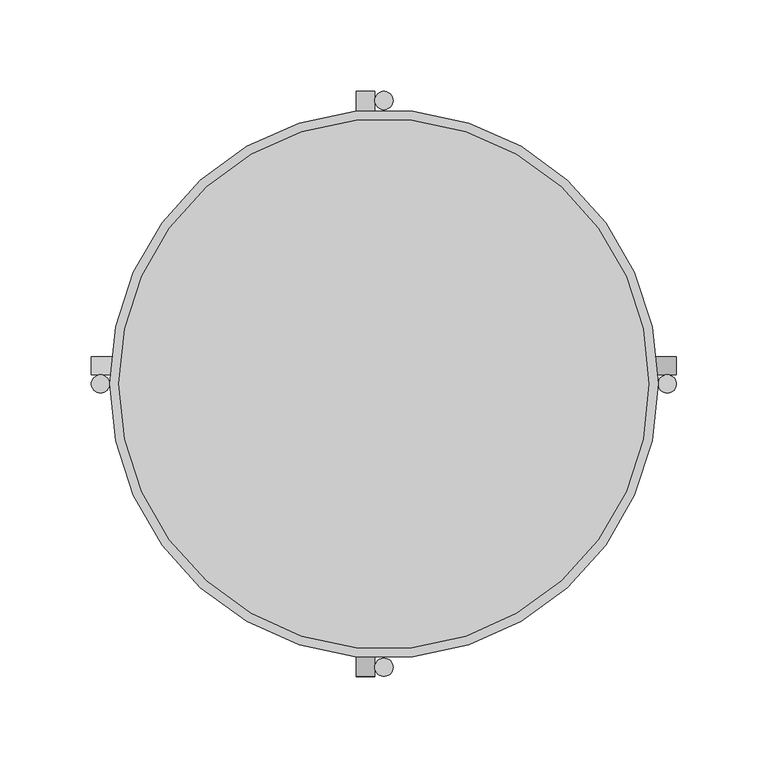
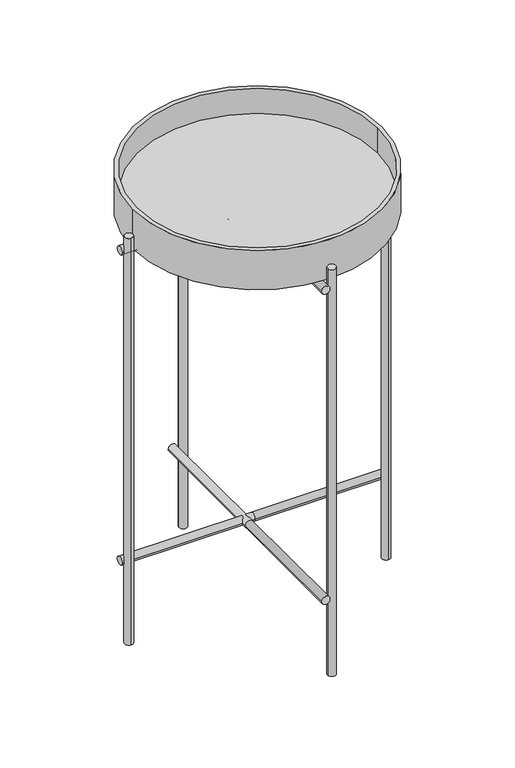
"""IFC4 building model written with IfcOpenShell, lengths in millimetres: furniture geometry, Mobiliário_Mobiliário de Escritório_Mesa de Centro e Apoio Lateral HOS06_Marelli : Mobiliário_Mobiliário de Escritório_Mesa de Centro e Apoio Lateral HOS06_Marelli."""

from ifc_helpers import new_model, si_unit, point, frame, frame_2d, origin, origin_with_axes, place, context, project, spatial, polyline, circle_curve, trimmed, segment, composite_curve, outline, extrude, source, transform, mapped, element, save
from ifc_brep_helpers import plane_surface, cylinder_surface, revolved_surface, advanced_brep


def furniture_1215a6ad(model_context):
    return source(origin(), model_context, "Body", "SolidModel", [
        extrude(outline(composite_curve([segment(trimmed(circle_curve(frame_2d((0.0, 155.0)), 5.0), [point((-5.0, 155.0))], [point((5.0, 155.0))], False, "CARTESIAN"), True, "CONTINUOUS"), segment(trimmed(circle_curve(frame_2d((0.0, 155.0)), 5.0), [point((5.0, 155.0))], [point((-5.0, 155.0))], False, "CARTESIAN"), True, "CONTINUOUS")], self_intersect=False)), origin_with_axes(), (0.0, 0.0, 1.0), 518.0),
        extrude(outline(composite_curve([segment(trimmed(circle_curve(frame_2d((0.0, -155.0)), 5.0), [point((-5.0, -155.0))], [point((5.0, -155.0))], False, "CARTESIAN"), True, "CONTINUOUS"), segment(trimmed(circle_curve(frame_2d((0.0, -155.0)), 5.0), [point((5.0, -155.0))], [point((-5.0, -155.0))], False, "CARTESIAN"), True, "CONTINUOUS")], self_intersect=False)), origin_with_axes(), (0.0, 0.0, 1.0), 518.0),
        extrude(outline(composite_curve([segment(trimmed(circle_curve(frame_2d((155.0, 0.0)), 5.0), [point((155.0, -5.0))], [point((155.0, 5.0))], False, "CARTESIAN"), True, "CONTINUOUS"), segment(trimmed(circle_curve(frame_2d((155.0, 0.0)), 5.0), [point((155.0, 5.0))], [point((155.0, -5.0))], False, "CARTESIAN"), True, "CONTINUOUS")], self_intersect=False)), origin_with_axes(), (0.0, 0.0, 1.0), 518.0),
        extrude(outline(composite_curve([segment(trimmed(circle_curve(frame_2d((-155.0, 0.0)), 5.0), [point((-155.0, -5.0))], [point((-155.0, 5.0))], False, "CARTESIAN"), True, "CONTINUOUS"), segment(trimmed(circle_curve(frame_2d((-155.0, 0.0)), 5.0), [point((-155.0, 5.0))], [point((-155.0, -5.0))], False, "CARTESIAN"), True, "CONTINUOUS")], self_intersect=False)), origin_with_axes(), (0.0, 0.0, 1.0), 518.0),
        advanced_brep(
        [(-150.0, 0.0, 550.0), (150.0, 0.0, 550.0), (145.0, 0.0, 550.0), (-145.0, 0.0, 550.0), (-150.0, 0.0, 500.0), (150.0, 0.0, 500.0), (-145.0, 0.0, 518.0), (145.0, 0.0, 518.0)],
        [
            (0, 1, circle_curve(frame((0.0, 0.0, 550.0), z_axis=(0.0, 0.0, 1.0), x_axis=(1.0, 0.0, 0.0)), 150.0)),
            (1, 0, circle_curve(frame((0.0, 0.0, 550.0), z_axis=(0.0, 0.0, 1.0), x_axis=(1.0, 0.0, 0.0)), 150.0)),
            (2, 3, circle_curve(frame((0.0, 0.0, 550.0), z_axis=(0.0, 0.0, -1.0), x_axis=(1.0, 0.0, 0.0)), 145.0)),
            (3, 2, circle_curve(frame((0.0, 0.0, 550.0), z_axis=(0.0, 0.0, -1.0), x_axis=(1.0, 0.0, 0.0)), 145.0)),
            (4, 5, circle_curve(frame((0.0, 0.0, 500.0), z_axis=(0.0, 0.0, -1.0), x_axis=(1.0, 0.0, 0.0)), 150.0)),
            (5, 4, circle_curve(frame((0.0, 0.0, 500.0), z_axis=(0.0, 0.0, -1.0), x_axis=(1.0, 0.0, 0.0)), 150.0)),
            (0, 4),
            (5, 1),
            (6, 7, circle_curve(frame((0.0, 0.0, 518.0), z_axis=(0.0, 0.0, 1.0), x_axis=(1.0, 0.0, 0.0)), 145.0)),
            (7, 6, circle_curve(frame((0.0, 0.0, 518.0), z_axis=(0.0, 0.0, 1.0), x_axis=(1.0, 0.0, 0.0)), 145.0)),
            (6, 3),
            (2, 7),
        ],
        [
            plane_surface(frame((150.0, 0.0, 550.0), z_axis=(0.0, 0.0, 1.0), x_axis=(0.0, 1.0, 0.0))),
            plane_surface(frame((150.0, 0.0, 500.0), z_axis=(0.0, 0.0, -1.0), x_axis=(0.0, -1.0, 0.0))),
            cylinder_surface(frame((0.0, 0.0, 500.0), z_axis=(0.0, 0.0, 1.0), x_axis=(1.0, 0.0, 0.0)), 150.0),
            plane_surface(frame((145.0, 0.0, 518.0), z_axis=(0.0, 0.0, 1.0), x_axis=(0.0, -1.0, 0.0))),
            revolved_surface(polyline([(145.0, 0.0, 550.0), (145.0, 0.0, 518.0)]), (0.0, 0.0, 518.0), (0.0, 0.0, 1.0)),
        ],
        [
            (0, [[1, 2], [3, 4]]),
            (1, [[5, 6]]),
            (2, [[-1, 7, -6, 8]]),
            (2, [[-2, -8, -5, -7]]),
            (3, [[9, 10]]),
            (4, [[-9, 11, -3, 12]]),
            (4, [[-10, -12, -4, -11]]),
        ],
    ),
        advanced_brep(
        [(-15.0, 160.0, 100.0), (-5.0, 160.0, 100.0), (-5.0, 0.0, 100.0), (-15.0, 0.0, 100.0), (-15.0, -160.0, 100.0), (-5.0, -160.0, 100.0)],
        [
            (0, 1, circle_curve(frame((-10.0, 160.0, 100.0), z_axis=(0.0, 1.0, 0.0), x_axis=(1.0, 0.0, 0.0)), 5.0)),
            (1, 0, circle_curve(frame((-10.0, 160.0, 100.0), z_axis=(0.0, 1.0, 0.0), x_axis=(1.0, 0.0, 0.0)), 5.0)),
            (1, 2),
            (2, 3, circle_curve(frame((-10.0, 0.0, 100.0), z_axis=(0.0, 1.0, 0.0), x_axis=(1.0, 0.0, 0.0)), 5.0)),
            (3, 0),
            (3, 2, circle_curve(frame((-10.0, 0.0, 100.0), z_axis=(0.0, 1.0, 0.0), x_axis=(1.0, 0.0, 0.0)), 5.0)),
            (4, 5, circle_curve(frame((-10.0, -160.0, 100.0), z_axis=(0.0, -1.0, 0.0), x_axis=(1.0, 0.0, 0.0)), 5.0)),
            (5, 4, circle_curve(frame((-10.0, -160.0, 100.0), z_axis=(0.0, -1.0, 0.0), x_axis=(1.0, 0.0, 0.0)), 5.0)),
            (4, 3),
            (2, 5),
        ],
        [
            plane_surface(frame((-5.0, 160.0, 100.0), z_axis=(0.0, 1.0, 0.0), x_axis=(0.0, 0.0, -1.0))),
            cylinder_surface(frame((-10.0, 160.0, 100.0), z_axis=(0.0, -1.0, 0.0), x_axis=(1.0, 0.0, 0.0)), 5.0),
            plane_surface(frame((-5.0, -160.0, 100.0), z_axis=(0.0, -1.0, 0.0), x_axis=(0.0, 0.0, 1.0))),
            cylinder_surface(frame((-10.0, -160.0, 100.0), z_axis=(0.0, 1.0, 0.0), x_axis=(1.0, 0.0, 0.0)), 5.0),
        ],
        [
            (0, [[1, 2]]),
            (1, [[-2, 3, 4, 5]]),
            (1, [[-1, -5, 6, -3]]),
            (2, [[7, 8]]),
            (3, [[-7, 9, -4, 10]]),
            (3, [[-8, -10, -6, -9]]),
        ],
    ),
        advanced_brep(
        [(-160.0, 5.0, 100.0), (-160.0, 15.0, 100.0), (0.0, 15.0, 100.0), (0.0, 5.0, 100.0), (160.0, 5.0, 100.0), (160.0, 15.0, 100.0)],
        [
            (0, 1, circle_curve(frame((-160.0, 10.0, 100.0), z_axis=(-1.0, 0.0, 0.0), x_axis=(0.0, 1.0, 0.0)), 5.0)),
            (1, 0, circle_curve(frame((-160.0, 10.0, 100.0), z_axis=(-1.0, 0.0, 0.0), x_axis=(0.0, 1.0, 0.0)), 5.0)),
            (1, 2),
            (2, 3, circle_curve(frame((0.0, 10.0, 100.0), z_axis=(-1.0, 0.0, 0.0), x_axis=(0.0, 1.0, 0.0)), 5.0)),
            (3, 0),
            (3, 2, circle_curve(frame((0.0, 10.0, 100.0), z_axis=(-1.0, 0.0, 0.0), x_axis=(0.0, 1.0, 0.0)), 5.0)),
            (4, 5, circle_curve(frame((160.0, 10.0, 100.0), z_axis=(1.0, 0.0, 0.0), x_axis=(0.0, 1.0, 0.0)), 5.0)),
            (5, 4, circle_curve(frame((160.0, 10.0, 100.0), z_axis=(1.0, 0.0, 0.0), x_axis=(0.0, 1.0, 0.0)), 5.0)),
            (4, 3),
            (2, 5),
        ],
        [
            plane_surface(frame((-160.0, 15.0, 100.0), z_axis=(-1.0, 0.0, 0.0), x_axis=(0.0, 0.0, -1.0))),
            cylinder_surface(frame((-160.0, 10.0, 100.0), z_axis=(1.0, 0.0, 0.0), x_axis=(0.0, 1.0, 0.0)), 5.0),
            plane_surface(frame((160.0, 15.0, 100.0), z_axis=(1.0, 0.0, 0.0), x_axis=(0.0, 0.0, 1.0))),
            cylinder_surface(frame((160.0, 10.0, 100.0), z_axis=(-1.0, 0.0, 0.0), x_axis=(0.0, 1.0, 0.0)), 5.0),
        ],
        [
            (0, [[1, 2]]),
            (1, [[-2, 3, 4, 5]]),
            (1, [[-1, -5, 6, -3]]),
            (2, [[7, 8]]),
            (3, [[-7, 9, -4, 10]]),
            (3, [[-8, -10, -6, -9]]),
        ],
    ),
        extrude(outline(composite_curve([segment(trimmed(circle_curve(frame_2d((495.0, -10.0)), 5.0), [point((495.0, -15.0))], [point((495.0, -5.0))], False, "CARTESIAN"), True, "CONTINUOUS"), segment(trimmed(circle_curve(frame_2d((495.0, -10.0)), 5.0), [point((495.0, -5.0))], [point((495.0, -15.0))], False, "CARTESIAN"), True, "CONTINUOUS")], self_intersect=False)), frame((0.0, -160.0, 0.0), z_axis=(0.0, 1.0, 0.0), x_axis=(0.0, 0.0, 1.0)), (0.0, 0.0, 1.0), 130.0),
        extrude(outline(composite_curve([segment(trimmed(circle_curve(frame_2d((495.0, -10.0)), 5.0), [point((495.0, -15.0))], [point((495.0, -5.0))], False, "CARTESIAN"), True, "CONTINUOUS"), segment(trimmed(circle_curve(frame_2d((495.0, -10.0)), 5.0), [point((495.0, -5.0))], [point((495.0, -15.0))], False, "CARTESIAN"), True, "CONTINUOUS")], self_intersect=False)), frame((0.0, 30.0, 0.0), z_axis=(0.0, 1.0, 0.0), x_axis=(0.0, 0.0, 1.0)), (0.0, 0.0, 1.0), 130.0),
        extrude(outline(composite_curve([segment(trimmed(circle_curve(frame_2d((10.0, 495.0)), 5.0), [point((5.0, 495.0))], [point((15.0, 495.0))], False, "CARTESIAN"), True, "CONTINUOUS"), segment(trimmed(circle_curve(frame_2d((10.0, 495.0)), 5.0), [point((15.0, 495.0))], [point((5.0, 495.0))], False, "CARTESIAN"), True, "CONTINUOUS")], self_intersect=False)), frame((-160.0, 0.0, 0.0), z_axis=(1.0, 0.0, 0.0), x_axis=(0.0, 1.0, 0.0)), (0.0, 0.0, 1.0), 130.0),
        extrude(outline(composite_curve([segment(trimmed(circle_curve(frame_2d((10.0, 495.0)), 5.0), [point((5.0, 495.0))], [point((15.0, 495.0))], False, "CARTESIAN"), True, "CONTINUOUS"), segment(trimmed(circle_curve(frame_2d((10.0, 495.0)), 5.0), [point((15.0, 495.0))], [point((5.0, 495.0))], False, "CARTESIAN"), True, "CONTINUOUS")], self_intersect=False)), frame((30.0, 0.0, 0.0), z_axis=(1.0, 0.0, 0.0), x_axis=(0.0, 1.0, 0.0)), (0.0, 0.0, 1.0), 130.0),
    ])


if __name__ == "__main__":
    model = new_model("IFC4")
    model_context = context("Model", 3, world=origin())
    ifc_project = project(units=[si_unit("LENGTHUNIT", "METRE", prefix="MILLI")], contexts=[model_context])
    site = spatial("IfcSite", under=ifc_project)
    building = spatial("IfcBuilding", under=site)
    placement = place(None, origin())
    furniture_shape = furniture_1215a6ad(model_context)
    element("IfcFurniture", 1, ObjectType="Mobiliário_Mobiliário de Escritório_Mesa de Centro e Apoio Lateral HOS06_Marelli : Mobiliário_Mobiliário de Escritório_Mesa de Centro e Apoio Lateral HOS06_Marelli", at=placement, inside=building, context=model_context, shape_type="MappedRepresentation", body=[
        mapped(furniture_shape, transform((0.0, 0.0, 0.0), x_axis=(1.0, 0.0, 0.0), y_axis=(0.0, 1.0, 0.0), z_axis=(0.0, 0.0, 1.0))),
    ])
    save(model, "model.ifc")
